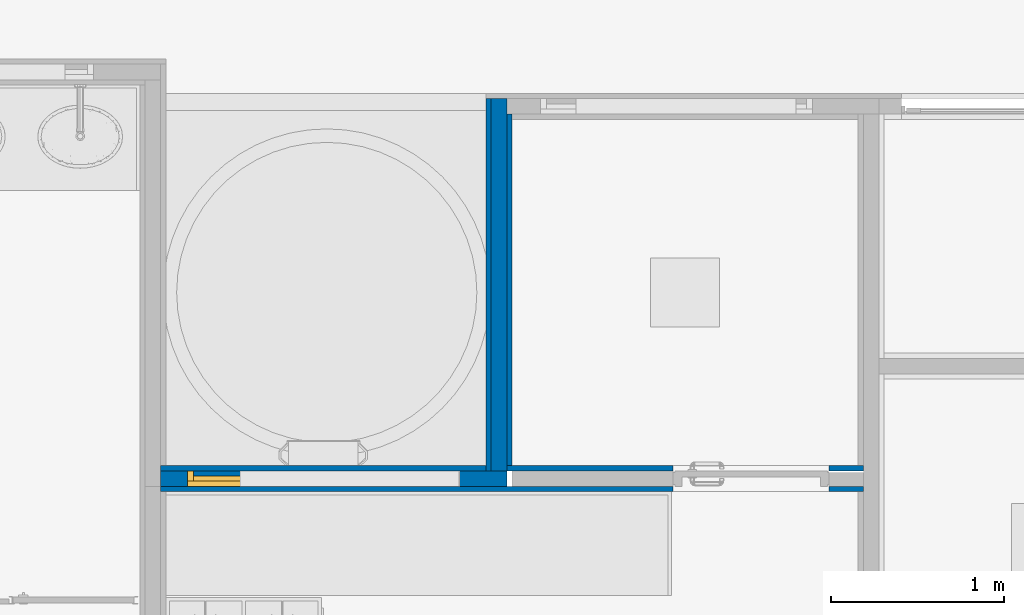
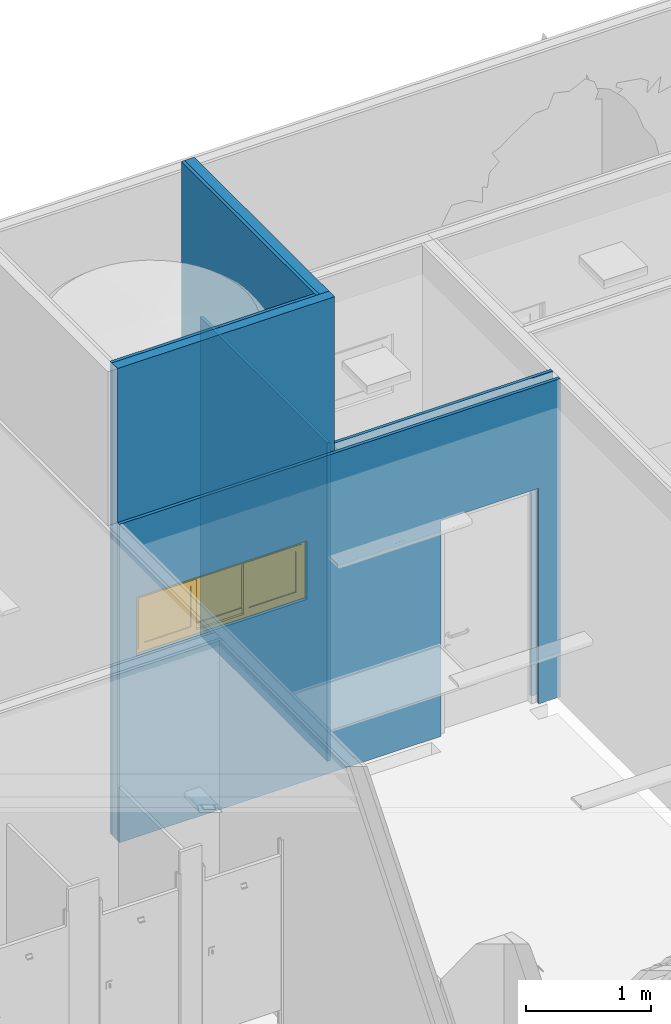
# One storey, part 40 of 155: 7 walls, 1 window, 9 openings.
"""IFC2X3 building model written with IfcOpenShell, lengths in metres."""

from ifc_helpers import new_model, entity, si_unit, converted_unit, derived_unit, direction, frame, frame_2d, origin, origin_2d_with_axis, place, context, subcontext, project, spatial, polyline, rectangle, outline, extrude, source, transform, mapped, material, material_list, layer, layer_set, layer_usage, type_object, type_shapes, element, fill, save


model = new_model("IFC2X3")

# Units and contexts
model_context = context("Model", 3, precision=1e-05, world=origin(), true_north=direction((6.12303176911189e-17, 1.0)))
body_context = subcontext(model_context, "Body", "Model", "MODEL_VIEW")
ifc_project = project(units=[si_unit("LENGTHUNIT", "METRE"), si_unit("AREAUNIT", "SQUARE_METRE"), si_unit("VOLUMEUNIT", "CUBIC_METRE"), converted_unit("PLANEANGLEUNIT", "DEGREE", entity("IfcRatioMeasure", 0.0174532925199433), si_unit("PLANEANGLEUNIT", "RADIAN"), dimensions=[0, 0, 0, 0, 0, 0, 0]), si_unit("MASSUNIT", "GRAM", prefix="KILO"), derived_unit("MASSDENSITYUNIT", [(si_unit("MASSUNIT", "GRAM", prefix="KILO"), 1), (si_unit("LENGTHUNIT", "METRE"), -3)]), si_unit("TIMEUNIT", "SECOND"), si_unit("FREQUENCYUNIT", "HERTZ"), si_unit("THERMODYNAMICTEMPERATUREUNIT", "DEGREE_CELSIUS"), derived_unit("THERMALTRANSMITTANCEUNIT", [(si_unit("MASSUNIT", "GRAM", prefix="KILO"), 1), (si_unit("THERMODYNAMICTEMPERATUREUNIT", "KELVIN"), -1), (si_unit("TIMEUNIT", "SECOND"), -3)]), derived_unit("VOLUMETRICFLOWRATEUNIT", [(si_unit("LENGTHUNIT", "METRE"), 3), (si_unit("TIMEUNIT", "SECOND"), -1)]), si_unit("ELECTRICCURRENTUNIT", "AMPERE"), si_unit("ELECTRICVOLTAGEUNIT", "VOLT"), si_unit("POWERUNIT", "WATT"), si_unit("FORCEUNIT", "NEWTON", prefix="KILO"), si_unit("ILLUMINANCEUNIT", "LUX"), si_unit("LUMINOUSFLUXUNIT", "LUMEN"), si_unit("LUMINOUSINTENSITYUNIT", "CANDELA"), derived_unit("USERDEFINED", [(si_unit("MASSUNIT", "GRAM", prefix="KILO"), -1), (si_unit("LENGTHUNIT", "METRE"), -2), (si_unit("TIMEUNIT", "SECOND"), 3), (si_unit("LUMINOUSFLUXUNIT", "LUMEN"), 1)]), derived_unit("LINEARVELOCITYUNIT", [(si_unit("LENGTHUNIT", "METRE"), 1), (si_unit("TIMEUNIT", "SECOND"), -1)]), si_unit("PRESSUREUNIT", "PASCAL"), derived_unit("USERDEFINED", [(si_unit("LENGTHUNIT", "METRE"), -2), (si_unit("MASSUNIT", "GRAM", prefix="KILO"), 1), (si_unit("TIMEUNIT", "SECOND"), -2)])], contexts=[model_context])

# Site, building, storey
site_placement = place(None, frame((26.9889013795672, -17.5624287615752, 0.0)))
site = spatial("IfcSite", under=ifc_project, at=site_placement, Name="Default", CompositionType="ELEMENT")
building_placement = place(site_placement, origin())
building = spatial("IfcBuilding", under=site, at=building_placement, Name="C. C. L. Monsenhor Antônio Sampaio", CompositionType="ELEMENT")
storey_placement = place(building_placement, frame((0.0, 0.0, 1.19999999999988)))
storey = spatial("IfcBuildingStorey", under=building, at=storey_placement, Name="Nível 1.2", CompositionType="ELEMENT", Elevation=1.19999999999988)

# Wall
ifc_material_1 = material(Name="ALVENARIA")
ifc_layer_1 = layer(ifc_material_1, 0.09)
ifc_layer_set_1 = layer_set([ifc_layer_1], Name="Parede básica:ENucleo parede 15cm")
ifc_layer_usage_1 = layer_usage(ifc_layer_set_1, "AXIS2", "POSITIVE", -0.045)
wall_type_1 = type_object("IfcWallType", Name="Parede básica:ENucleo parede 15cm", PredefinedType="STANDARD", material=ifc_layer_set_1)
wall_1_placement = place(storey_placement, frame((1.65444770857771, -10.8330663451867, 0.0), z_axis=(0.0, 0.0, 1.0), x_axis=(0.0, 1.0, 0.0)))
element("IfcWallStandardCase", 1, at=wall_1_placement, inside=storey, type_object=wall_type_1, material=ifc_layer_usage_1, Name="Parede básica:ENucleo parede 15cm", ObjectType="Parede básica:ENucleo parede 15cm", context=body_context, shape_type="SweptSolid", body=[
    extrude(rectangle(XDim=2.15000000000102, YDim=0.0900000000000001, at=frame_2d((1.07500000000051, 0.0), x_axis=(-1.0, 0.0))), origin(), (0.0, 0.0, 1.0), 4.60000000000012),
])

# Wall, openings, window
ifc_layer_usage_2 = layer_usage(ifc_layer_set_1, "AXIS2", "POSITIVE", -0.045)
wall_2_placement = place(storey_placement, frame((-0.300552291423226, -10.8780663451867, 0.0)))
wall_2 = element("IfcWallStandardCase", 2, at=wall_2_placement, inside=storey, type_object=wall_type_1, material=ifc_layer_usage_2, Name="Parede básica:ENucleo parede 15cm", ObjectType="Parede básica:ENucleo parede 15cm", context=body_context, shape_type="SweptSolid", body=[
    extrude(rectangle(XDim=1.99999999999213, YDim=0.0900000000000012, at=frame_2d((0.999999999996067, -5.20417042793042e-17), x_axis=(-1.0, 0.0))), origin(), (0.0, 0.0, 1.0), 4.60000000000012),
])
opening_1_placement = place(wall_2_placement, origin())
element("IfcOpeningElement", 3, at=opening_1_placement, cuts=wall_2, Name="Parede básica:ENucleo parede 15cm", ObjectType="Opening", context=body_context, shape_type="SweptSolid", body=[
    extrude(rectangle(XDim=2.09999999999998, YDim=0.9, at=frame_2d((0.0, 0.0), x_axis=(0.0, 1.0))), frame((3.41141826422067, -1.479, 1.04999999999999), z_axis=(0.0, 1.0, 0.0), x_axis=(-1.0, 0.0, 0.0)), (0.0, 0.0, 1.0), 3.048),
])
opening_2_placement = place(wall_2_placement, frame((0.300552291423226, 10.8780663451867, 0.0)))
element("IfcOpeningElement", 4, at=opening_2_placement, cuts=wall_2, Name="Parede básica:ENucleo parede 15cm", ObjectType="Opening", context=body_context, shape_type="SweptSolid", body=[
    extrude(rectangle(XDim=0.47000000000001, YDim=1.26999999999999, at=origin_2d_with_axis()), frame((0.794447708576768, -12.4470663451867, 1.90000000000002), z_axis=(0.0, 1.0, 0.0), x_axis=(0.0, 0.0, 1.0)), (0.0, 0.0, 1.0), 3.048),
])
opening_3_placement = place(wall_2_placement, frame((0.155000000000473, -0.0450000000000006, 1.76500000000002)))
opening_3 = element("IfcOpeningElement", 5, at=opening_3_placement, cuts=wall_2, Name="Janela 150x1:150 x 50:1", ObjectType="Opening", context=body_context, shape_type="SweptSolid", body=[
    extrude(rectangle(XDim=0.570000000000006, YDim=1.56999999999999, at=frame_2d((0.285000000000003, 0.784999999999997), x_axis=(1.0, 0.0))), frame((0.0, 0.0, 0.0), z_axis=(0.0, 1.0, 0.0), x_axis=(0.0, 0.0, 1.0)), (0.0, 0.0, 1.0), 0.09),
])
ifc_material_2 = material(Name="VIDRO COMUM LISO VERDE")
ifc_material_3 = material(Name="ALUMÍNIO COM PINTURA ELETROSTÁTICA BRANCA")
ifc_material_list_1 = material_list([ifc_material_2, ifc_material_3])
ifc_material_list_2 = material_list([ifc_material_2, ifc_material_3])
window_style = type_object("IfcWindowStyle", Name="150 x 50", ConstructionType="NOTDEFINED", OperationType="NOTDEFINED", ParameterTakesPrecedence=False, Sizeable=False, material=ifc_material_list_2)
shared_shape = source(origin(), body_context, "Body", "SweptSolid", [
    extrude(rectangle(XDim=0.43333, YDim=0.00599999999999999, at=frame_2d((2.77555756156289e-17, 0.0), x_axis=(1.0, 0.0))), frame((0.301610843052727, 0.00749999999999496, 0.0849999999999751), z_axis=(0.0, 0.0, 1.0), x_axis=(-1.0, 0.0, 0.0)), (0.0, 0.0, 1.0), 0.4),
    extrude(outline(polyline([(-0.250000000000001, -0.266665), (0.250000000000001, -0.266665), (0.250000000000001, 0.266665), (-0.250000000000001, 0.266665), (-0.250000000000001, -0.266665)]), holes=[polyline([(-0.200000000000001, -0.216665), (-0.200000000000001, 0.216665), (0.200000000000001, 0.216665), (0.200000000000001, -0.216665), (-0.200000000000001, -0.216665)])]), frame((0.301610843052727, -0.00500000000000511, 0.284999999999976), z_axis=(0.0, 1.0, 0.0), x_axis=(0.0, 0.0, -1.0)), (0.0, 0.0, 1.0), 0.025),
    extrude(rectangle(XDim=0.00599999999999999, YDim=0.43333, at=origin_2d_with_axis()), frame((0.784999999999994, 0.0324999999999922, 0.0849999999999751), z_axis=(0.0, 0.0, 1.0), x_axis=(0.0, -1.0, 0.0)), (0.0, 0.0, 1.0), 0.4),
    extrude(outline(polyline([(-0.266665, -0.250000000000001), (0.266665, -0.250000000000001), (0.266665, 0.250000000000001), (-0.266665, 0.250000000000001), (-0.266665, -0.250000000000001)]), holes=[polyline([(-0.216665, -0.200000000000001), (-0.216665, 0.200000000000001), (0.216665, 0.200000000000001), (0.216665, -0.200000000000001), (-0.216665, -0.200000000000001)])]), frame((0.784999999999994, 0.0199999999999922, 0.284999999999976), z_axis=(0.0, 1.0, 0.0), x_axis=(1.0, 0.0, 0.0)), (0.0, 0.0, 1.0), 0.025),
    extrude(rectangle(XDim=0.00599999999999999, YDim=0.43333, at=frame_2d((0.0, -2.77555756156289e-17), x_axis=(1.0, 0.0))), frame((1.26838915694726, 0.00749999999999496, 0.0849999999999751), z_axis=(0.0, 0.0, 1.0), x_axis=(0.0, -1.0, 0.0)), (0.0, 0.0, 1.0), 0.4),
    extrude(outline(polyline([(-0.266665, -0.250000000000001), (0.266665, -0.250000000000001), (0.266665, 0.250000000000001), (-0.266665, 0.250000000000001), (-0.266665, -0.250000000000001)]), holes=[polyline([(-0.216665, -0.200000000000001), (-0.216665, 0.200000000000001), (0.216665, 0.200000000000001), (0.216665, -0.200000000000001), (-0.216665, -0.200000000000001)])]), frame((1.26838915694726, -0.00500000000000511, 0.284999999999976), z_axis=(0.0, 1.0, 0.0), x_axis=(1.0, 0.0, 0.0)), (0.0, 0.0, 1.0), 0.025),
    extrude(rectangle(XDim=0.12, YDim=0.0349999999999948, at=origin_2d_with_axis()), frame((1.55249999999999, 0.06, 0.0349999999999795), z_axis=(0.0, 0.0, 1.0), x_axis=(0.0, -1.0, 0.0)), (0.0, 0.0, 1.0), 0.500000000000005),
    extrude(rectangle(XDim=0.12, YDim=0.0349999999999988, at=origin_2d_with_axis()), frame((0.0174999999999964, 0.06, 0.0349999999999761), z_axis=(0.0, 0.0, 1.0), x_axis=(0.0, -1.0, 0.0)), (0.0, 0.0, 1.0), 0.500000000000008),
    extrude(rectangle(XDim=0.06, YDim=1.57, at=origin_2d_with_axis()), frame((0.784999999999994, 0.03, 0.0), z_axis=(0.0, 0.0, 1.0), x_axis=(0.0, -1.0, 0.0)), (0.0, 0.0, 1.0), 0.0349999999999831),
    extrude(rectangle(XDim=0.03, YDim=1.56999999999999, at=origin_2d_with_axis()), frame((0.784999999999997, 0.015, 0.534999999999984), z_axis=(0.0, 0.0, 1.0), x_axis=(0.0, -1.0, 0.0)), (0.0, 0.0, 1.0), 0.0350000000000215),
])
type_shapes(window_style, [shared_shape])
window_placement = place(opening_3_placement, origin())
window = element("IfcWindow", 6, at=window_placement, inside=storey, type_object=window_style, material=ifc_material_list_1, Name="Janela 150x1:150 x 50", ObjectType="150 x 50", OverallHeight=0.570000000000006, OverallWidth=1.56999999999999, context=body_context, shape_type="MappedRepresentation", body=[
    mapped(shared_shape, transform((0.0, 0.0, 0.0), scale=1.0)),
])
fill(opening_3, window)

# Wall, openings
ifc_material_4 = material(Name=".CERÂMICA 10x10 BRANCA")
ifc_layer_2 = layer(ifc_material_4, 0.0035)
ifc_material_5 = material(Name="Argamassa Colante")
ifc_layer_3 = layer(ifc_material_5, 0.02)
ifc_material_6 = material(Name="4")
ifc_layer_4 = layer(ifc_material_6, 0.0015)
ifc_material_7 = material(Name="3")
ifc_layer_5 = layer(ifc_material_7, 0.005)
ifc_layer_set_2 = layer_set([ifc_layer_2, ifc_layer_3, ifc_layer_4, ifc_layer_5], Name="Parede básica:ECeramica branca 10x10cm")
ifc_layer_usage_3 = layer_usage(ifc_layer_set_2, "AXIS2", "POSITIVE", -0.015)
wall_type_2 = type_object("IfcWallType", Name="Parede básica:ECeramica branca 10x10cm", PredefinedType="STANDARD", material=ifc_layer_set_2)
wall_3_placement = place(storey_placement, frame((-0.300552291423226, -10.9380663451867, 0.0)))
wall_3 = element("IfcWallStandardCase", 7, at=wall_3_placement, inside=storey, type_object=wall_type_2, material=ifc_layer_usage_3, Name="Parede básica:ECeramica branca 10x10cm", ObjectType="Parede básica:ECeramica branca 10x10cm", context=body_context, shape_type="SweptSolid", body=[
    extrude(rectangle(XDim=4.06016826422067, YDim=0.0300000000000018, at=frame_2d((2.03008413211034, 0.0), x_axis=(-1.0, 0.0))), origin(), (0.0, 0.0, 1.0), 3.10000000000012),
])
opening_4_placement = place(wall_3_placement, origin())
element("IfcOpeningElement", 8, at=opening_4_placement, cuts=wall_3, Name="Parede básica:ECeramica branca 10x10cm", ObjectType="Opening", context=body_context, shape_type="SweptSolid", body=[
    extrude(rectangle(XDim=0.570000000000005, YDim=1.56999999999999, at=frame_2d((5.27355936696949e-16, 0.0), x_axis=(1.0, 0.0))), frame((0.94000000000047, -1.509, 2.05000000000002), z_axis=(0.0, 1.0, 0.0), x_axis=(0.0, 0.0, 1.0)), (0.0, 0.0, 1.0), 3.048),
])
opening_5_placement = place(wall_3_placement, origin())
element("IfcOpeningElement", 9, at=opening_5_placement, cuts=wall_3, Name="Parede básica:ECeramica branca 10x10cm", ObjectType="Opening", context=body_context, shape_type="SweptSolid", body=[
    extrude(rectangle(XDim=2.09999999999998, YDim=0.9, at=frame_2d((0.0, 0.0), x_axis=(0.0, 1.0))), frame((3.41141826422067, -1.419, 1.04999999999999), z_axis=(0.0, 1.0, 0.0), x_axis=(-1.0, 0.0, 0.0)), (0.0, 0.0, 1.0), 3.048),
])

# Wall
ifc_material_8 = material(Name="Acabamento Branco")
ifc_layer_6 = layer(ifc_material_8, 0.0035)
ifc_material_9 = material(Name="Massa corrida")
ifc_layer_7 = layer(ifc_material_9, 0.02)
ifc_layer_8 = layer(ifc_material_6, 0.0015)
ifc_layer_9 = layer(ifc_material_7, 0.005)
ifc_layer_set_3 = layer_set([ifc_layer_6, ifc_layer_7, ifc_layer_8, ifc_layer_9], Name="Parede básica:EPintura Branca")
ifc_layer_usage_4 = layer_usage(ifc_layer_set_3, "AXIS2", "NEGATIVE", 0.015)
wall_type_3 = type_object("IfcWallType", Name="Parede básica:EPintura Branca", PredefinedType="STANDARD", material=ifc_layer_set_3)
wall_4_placement = place(storey_placement, frame((1.71444770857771, -8.77306634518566, 0.0), z_axis=(0.0, 0.0, 1.0), x_axis=(0.0, -1.0, 0.0)))
element("IfcWallStandardCase", 10, at=wall_4_placement, inside=storey, type_object=wall_type_3, material=ifc_layer_usage_4, Name="Parede básica:EPintura Branca", ObjectType="Parede básica:EPintura Branca", context=body_context, shape_type="SweptSolid", body=[
    extrude(rectangle(XDim=2.03000000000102, YDim=0.0300000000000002, at=frame_2d((1.01500000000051, -2.25514051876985e-17), x_axis=(-1.0, 0.0))), origin(), (0.0, 0.0, 1.0), 3.10000000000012),
])

# Wall, openings
ifc_layer_usage_5 = layer_usage(ifc_layer_set_3, "AXIS2", "NEGATIVE", 0.015)
wall_5_placement = place(storey_placement, frame((1.69944770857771, -10.8180663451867, 0.0)))
wall_5 = element("IfcWallStandardCase", 11, at=wall_5_placement, inside=storey, type_object=wall_type_3, material=ifc_layer_usage_5, Name="Parede básica:EPintura Branca", ObjectType="Parede básica:EPintura Branca", context=body_context, shape_type="SweptSolid", body=[
    extrude(rectangle(XDim=2.06016826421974, YDim=0.0300000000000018, at=frame_2d((1.03008413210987, 4.85722573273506e-17), x_axis=(-1.0, 0.0))), origin(), (0.0, 0.0, 1.0), 3.10000000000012),
])
opening_6_placement = place(wall_5_placement, origin())
element("IfcOpeningElement", 12, at=opening_6_placement, cuts=wall_5, Name="Parede básica:EPintura Branca", ObjectType="Opening", context=body_context, shape_type="SweptSolid", body=[
    extrude(rectangle(XDim=0.570000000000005, YDim=1.56999999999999, at=frame_2d((5.27355936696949e-16, 0.0), x_axis=(1.0, 0.0))), frame((-1.06000000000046, -1.629, 2.05000000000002), z_axis=(0.0, 1.0, 0.0), x_axis=(0.0, 0.0, 1.0)), (0.0, 0.0, 1.0), 3.048),
])
opening_7_placement = place(wall_5_placement, origin())
element("IfcOpeningElement", 13, at=opening_7_placement, cuts=wall_5, Name="Parede básica:EPintura Branca", ObjectType="Opening", context=body_context, shape_type="SweptSolid", body=[
    extrude(rectangle(XDim=2.09999999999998, YDim=0.9, at=frame_2d((0.0, 0.0), x_axis=(0.0, 1.0))), frame((1.41141826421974, -1.539, 1.04999999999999), z_axis=(0.0, 1.0, 0.0), x_axis=(-1.0, 0.0, 0.0)), (0.0, 0.0, 1.0), 3.048),
])

# Wall
ifc_material_10 = material(Name="Acabamento amarelo")
ifc_layer_10 = layer(ifc_material_10, 0.0035)
ifc_layer_11 = layer(ifc_material_9, 0.02)
ifc_layer_12 = layer(ifc_material_6, 0.0015)
ifc_layer_13 = layer(ifc_material_7, 0.005)
ifc_layer_set_4 = layer_set([ifc_layer_10, ifc_layer_11, ifc_layer_12, ifc_layer_13], Name="Parede básica:EPintura amarela")
ifc_layer_usage_6 = layer_usage(ifc_layer_set_4, "AXIS2", "POSITIVE", -0.015)
wall_type_4 = type_object("IfcWallType", Name="Parede básica:EPintura amarela", PredefinedType="STANDARD", material=ifc_layer_set_4)
wall_6_placement = place(storey_placement, frame((1.59444770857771, -8.68306634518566, 0.0), z_axis=(0.0, 0.0, 1.0), x_axis=(0.0, -1.0, 0.0)))
element("IfcWallStandardCase", 14, at=wall_6_placement, inside=storey, type_object=wall_type_4, material=ifc_layer_usage_6, Name="Parede básica:EPintura amarela", ObjectType="Parede básica:EPintura amarela", context=body_context, shape_type="SweptSolid", body=[
    extrude(rectangle(XDim=2.15000000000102, YDim=0.0300000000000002, at=frame_2d((1.07500000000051, 0.0), x_axis=(-1.0, 0.0))), origin(), (0.0, 0.0, 1.0), 4.60000000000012),
])

# Wall, openings
ifc_layer_usage_7 = layer_usage(ifc_layer_set_4, "AXIS2", "POSITIVE", -0.015)
wall_7_placement = place(storey_placement, frame((1.57944770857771, -10.8180663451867, 0.0), z_axis=(0.0, 0.0, 1.0), x_axis=(-1.0, 0.0, 0.0)))
wall_7 = element("IfcWallStandardCase", 15, at=wall_7_placement, inside=storey, type_object=wall_type_4, material=ifc_layer_usage_7, Name="Parede básica:EPintura amarela", ObjectType="Parede básica:EPintura amarela", context=body_context, shape_type="SweptSolid", body=[
    extrude(rectangle(XDim=1.88000000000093, YDim=0.0300000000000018, at=frame_2d((0.940000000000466, 0.0), x_axis=(-1.0, 0.0))), origin(), (0.0, 0.0, 1.0), 4.60000000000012),
])
opening_8_placement = place(wall_7_placement, origin())
element("IfcOpeningElement", 16, at=opening_8_placement, cuts=wall_7, Name="Parede básica:EPintura amarela", ObjectType="Opening", context=body_context, shape_type="SweptSolid", body=[
    extrude(rectangle(XDim=0.570000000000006, YDim=1.56999999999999, at=frame_2d((5.55111512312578e-17, 2.77555756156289e-16), x_axis=(0.0, 1.0))), frame((0.940000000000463, -1.41899999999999, 2.05000000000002), z_axis=(0.0, 1.0, 0.0), x_axis=(-1.0, 0.0, 0.0)), (0.0, 0.0, 1.0), 3.048),
])
opening_9_placement = place(wall_7_placement, origin())
element("IfcOpeningElement", 17, at=opening_9_placement, cuts=wall_7, Name="Parede básica:EPintura amarela", ObjectType="Opening", context=body_context, shape_type="SweptSolid", body=[
    extrude(rectangle(XDim=2.09999999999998, YDim=0.9, at=frame_2d((-3.33066907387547e-16, 0.0), x_axis=(1.0, 0.0))), frame((-1.53141826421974, -1.50899999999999, 1.04999999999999), z_axis=(0.0, 1.0, 0.0), x_axis=(0.0, 0.0, 1.0)), (0.0, 0.0, 1.0), 3.048),
])

save(model, "model.ifc")
